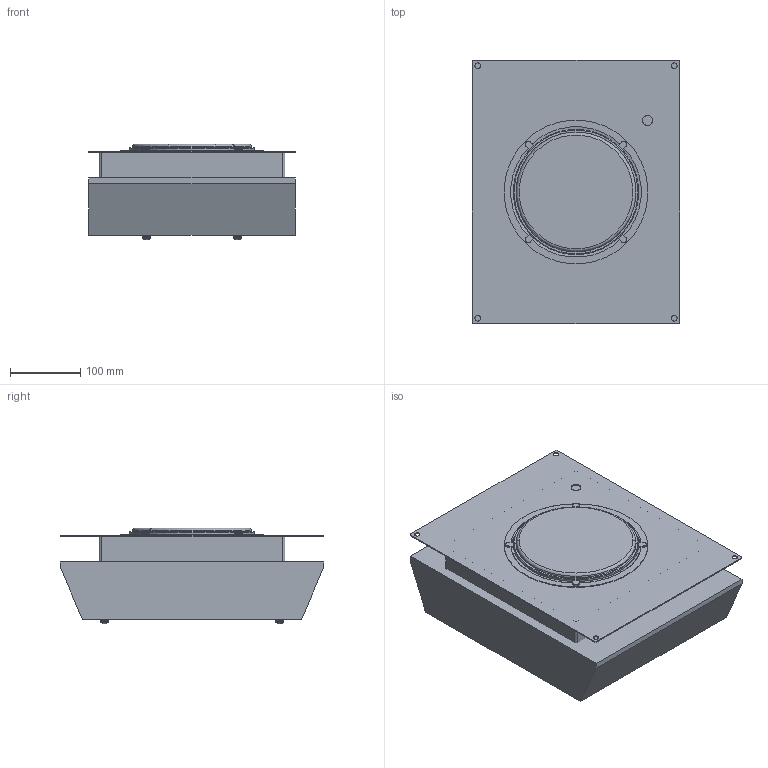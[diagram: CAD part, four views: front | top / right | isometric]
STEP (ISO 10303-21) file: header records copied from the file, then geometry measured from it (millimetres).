
FILE_DESCRIPTION (( 'STEP AP203' ), '1' );
FILE_NAME ('T19y.STEP', '2023-11-21T12:37:45', ( '' ), ( '' ), 'SwSTEP 2.0', 'SolidWorks 2022', '' );
FILE_SCHEMA (( 'CONFIG_CONTROL_DESIGN' ));
Length unit declared in the file: millimetre
Products named in the file (7): DT-03273DSI; T19y; RD-6.4x12-PA_semplificata; 192_semplificata; VT-UNI8112-M6X12_semplificata; DT-03272DSI_semplificata; DT-03271DSI_Semplificata<A macchina>
Assembly tree (12 placements, depth 2):
  T19y
    DT-03271DSI_Semplificata<A macchina>
    DT-03272DSI_semplificata
    DT-03273DSI
    192_semplificata
    VT-UNI8112-M6X12_semplificata  x4
    RD-6.4x12-PA_semplificata  x4
Bounding box: 295 x 375 x 136.1 mm (x, y, z)
Surface area: 779974 mm2
Topology: 12 solids, 12 shells, 130 faces, 295 edges, 194 vertices
Faces by surface type: plane 55, cylinder 47, torus 14, sphere 8, bspline 4, cone 2
Entity records: 3946 total; most frequent: CARTESIAN_POINT 624, DIRECTION 559, ORIENTED_EDGE 470, EDGE_CURVE 235, AXIS2_PLACEMENT_3D 220, VERTEX_POINT 155, EDGE_LOOP 120, VECTOR 119
